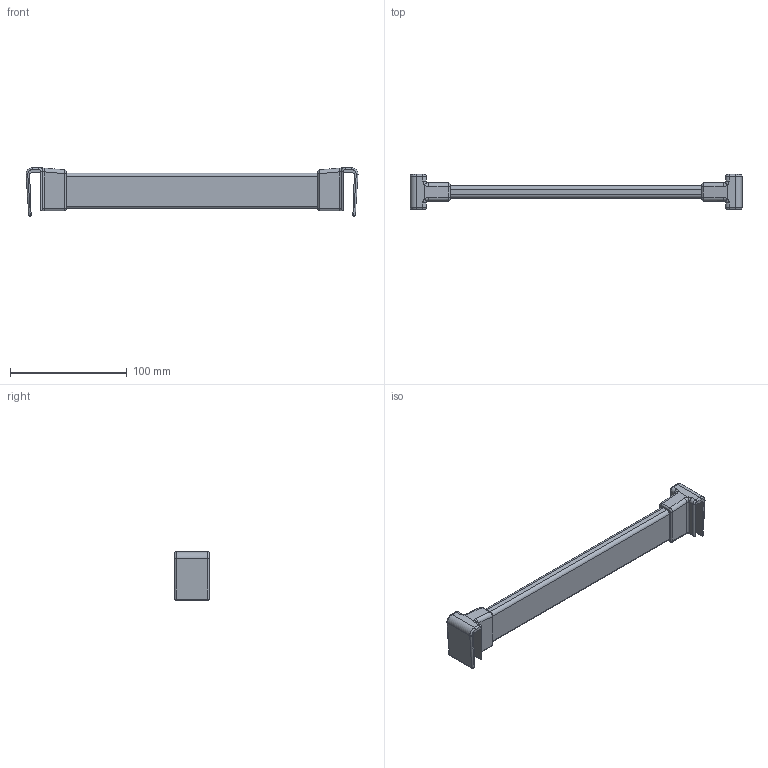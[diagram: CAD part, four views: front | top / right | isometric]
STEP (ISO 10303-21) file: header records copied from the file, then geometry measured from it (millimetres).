
FILE_DESCRIPTION (( 'STEP AP214' ), '1' );
FILE_NAME ('_Querreling_KAB-350_KS-19_P602_Glashalter.step', '2010-08-26T14:58:42', ( 'grass' ), ( '' ), 'SwSTEP 2.0', 'SolidWorks 2009', '' );
FILE_SCHEMA (( 'AUTOMOTIVE_DESIGN' ));
Length unit declared in the file: millimetre
Products named in the file (1): _Querreling_KAB-350_KS-19_P602_Glashalter
Bounding box: 284.78 x 30 x 41.5 mm (x, y, z)
Volume: 101554.6 mm3; surface area: 30622.3 mm2
Topology: 1 solids, 1 shells, 124 faces, 300 edges, 176 vertices
Faces by surface type: cylinder 58, plane 34, torus 16, bspline 12, sphere 4
Entity records: 5090 total; most frequent: CARTESIAN_POINT 2269, ORIENTED_EDGE 592, DIRECTION 590, EDGE_CURVE 296, AXIS2_PLACEMENT_3D 225, VERTEX_POINT 176, LINE 140, VECTOR 140
